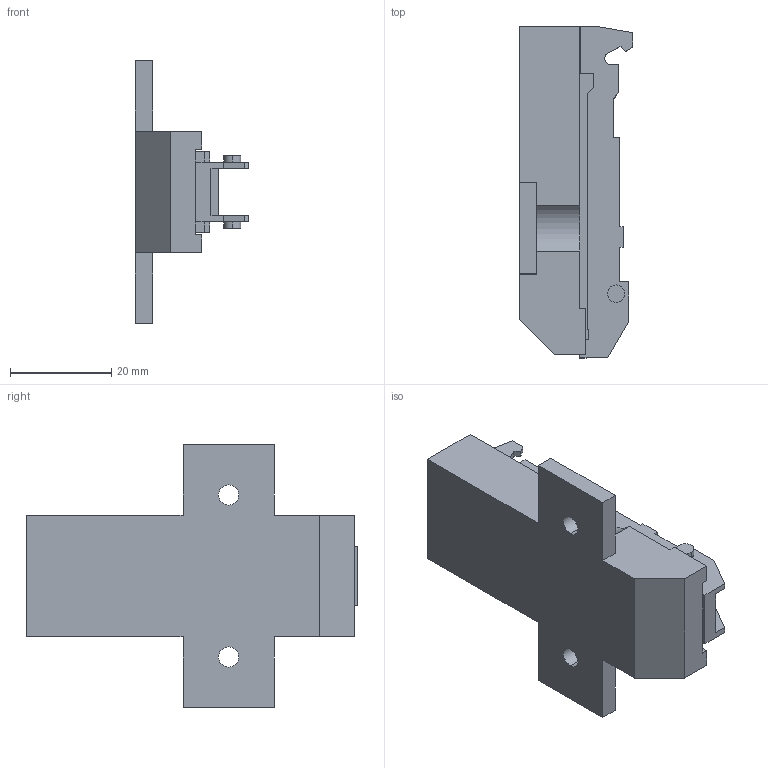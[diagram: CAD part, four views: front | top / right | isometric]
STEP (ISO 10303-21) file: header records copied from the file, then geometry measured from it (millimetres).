
FILE_DESCRIPTION (( 'STEP AP214' ), '1' );
FILE_NAME ('1D Kreuzmontageplatte_37_32_H12.STEP', '2011-08-18T14:01:21', ( '' ), ( '' ), 'SwSTEP 2.0', 'SolidWorks 2011', '' );
FILE_SCHEMA (( 'AUTOMOTIVE_DESIGN' ));
Length unit declared in the file: millimetre
Products named in the file (1): 1D Kreuzmontageplatte_37_32_H12
Bounding box: 22.5 x 65.55 x 52 mm (x, y, z)
Volume: 23327.4 mm3; surface area: 8496.7 mm2
Topology: 1 solids, 1 shells, 101 faces, 289 edges, 192 vertices
Faces by surface type: plane 89, cylinder 12
Entity records: 3293 total; most frequent: CARTESIAN_POINT 583, ORIENTED_EDGE 578, DIRECTION 517, EDGE_CURVE 289, LINE 265, VECTOR 265, VERTEX_POINT 192, AXIS2_PLACEMENT_3D 126
